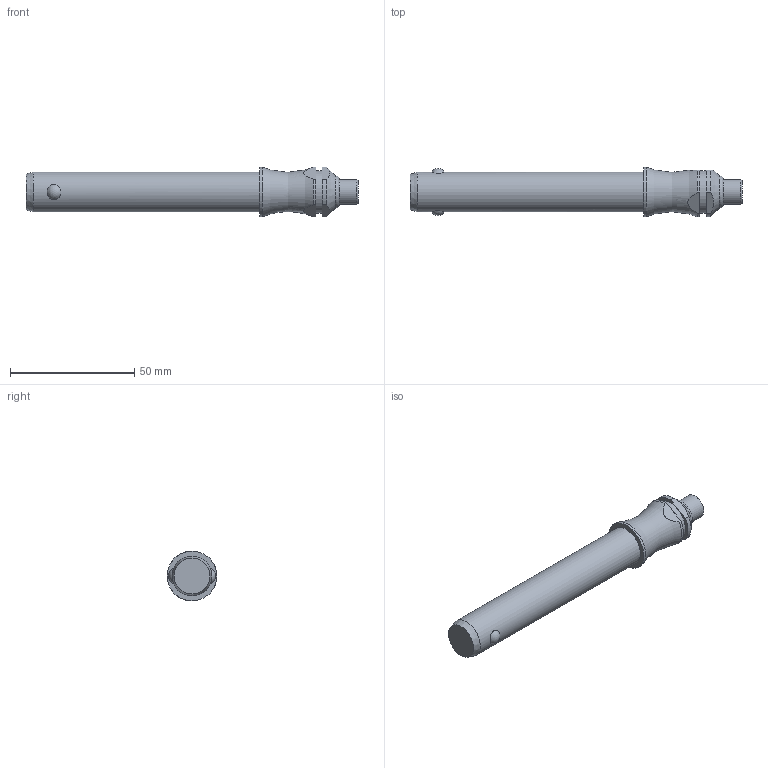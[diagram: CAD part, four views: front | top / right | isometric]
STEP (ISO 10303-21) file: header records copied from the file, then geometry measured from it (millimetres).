
FILE_DESCRIPTION( ( 'STEP AP203' ), '1' );
FILE_NAME( 'C:/Temp/Ganter_Step_05_03_2020/data/3_1/gn113_3/Stainless Steel-Ball lock pin GN 113.3-16-80 (deactivated).stp', '2020-03-12T08:18:56', ( 'License CC BY-ND 4.0' ), ( 'CADENAS' ), ' ', 'PARTsolutions', ' ' );
FILE_SCHEMA( ( 'CONFIG_CONTROL_DESIGN' ) );
Length unit declared in the file: millimetre
Products named in the file (1): _Stainless Steel-Ball lock pin GN 113.3-16-80 (deactivated)
Bounding box: 133.5 x 20 x 20 mm (x, y, z)
Volume: 26849 mm3; surface area: 7285 mm2
Topology: 1 solids, 1 shells, 28 faces, 60 edges, 39 vertices
Faces by surface type: plane 11, cylinder 10, cone 3, torus 2, sphere 2
Full cylindrical faces by diameter (mm): 10 x1, 16 x1, 17 x1, 20 x1
Entity records: 966 total; most frequent: CARTESIAN_POINT 350, DIRECTION 122, ORIENTED_EDGE 98, AXIS2_PLACEMENT_3D 52, EDGE_CURVE 49, EDGE_LOOP 42, VERTEX_POINT 38, FACE_OUTER_BOUND 34
